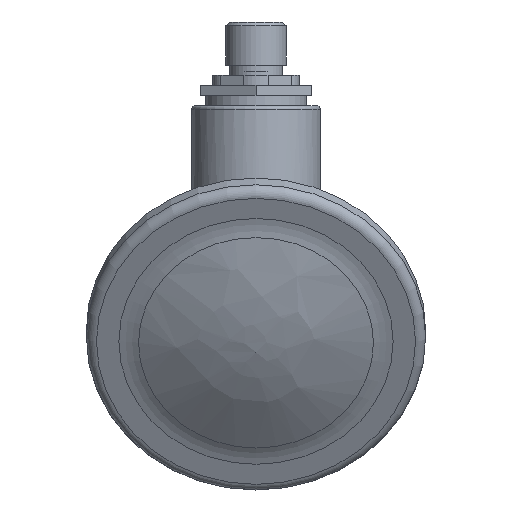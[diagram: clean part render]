
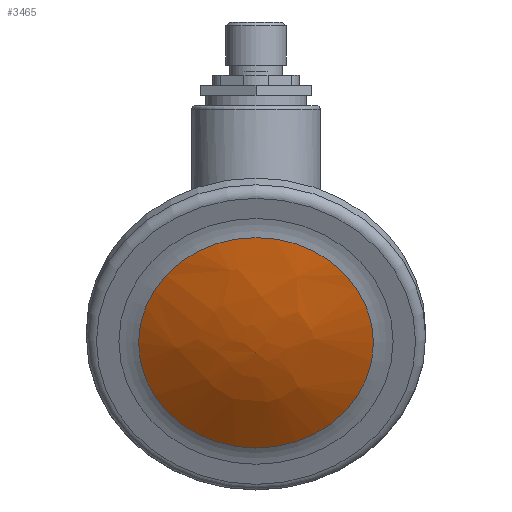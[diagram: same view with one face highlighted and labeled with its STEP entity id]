
A CAD part, left-side view. The second image highlights one B-rep face of the part: STEP entity #3465.
In plain terms, the highlighted free-form (B-spline) face has degree [3, 3] with [5, 19] control points.
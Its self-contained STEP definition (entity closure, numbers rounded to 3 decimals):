
#19=VERTEX_LOOP('',#1769);
#22=B_SPLINE_SURFACE_WITH_KNOTS('',3,3,((#7125,#7126,#7127,#7128,#7129,
#7130,#7131,#7132,#7133,#7134,#7135,#7136,#7137,#7138,#7139,#7140,#7141,
#7142,#7143),(#7144,#7145,#7146,#7147,#7148,#7149,#7150,#7151,#7152,#7153,
#7154,#7155,#7156,#7157,#7158,#7159,#7160,#7161,#7162),(#7163,#7164,#7165,
#7166,#7167,#7168,#7169,#7170,#7171,#7172,#7173,#7174,#7175,#7176,#7177,
#7178,#7179,#7180,#7181),(#7182,#7183,#7184,#7185,#7186,#7187,#7188,#7189,
#7190,#7191,#7192,#7193,#7194,#7195,#7196,#7197,#7198,#7199,#7200),(#7201,
#7202,#7203,#7204,#7205,#7206,#7207,#7208,#7209,#7210,#7211,#7212,#7213,
#7214,#7215,#7216,#7217,#7218,#7219)),.UNSPECIFIED.,.F.,.T.,.F.,(4,1,4),
(1,1,1,1,1,1,1,1,1,1,1,1,1,1,1,1,1,1,1,1,1,1,1),(0.,0.49,0.98),
(-1.178,-0.785,-0.393,0.,0.393,
0.785,1.178,1.571,1.963,2.356,
2.749,3.142,3.534,3.927,4.32,
4.712,5.105,5.498,5.89,6.283,
6.676,7.069,7.461),.UNSPECIFIED.);
#948=ORIENTED_EDGE('',*,*,#1459,.T.);
#1459=EDGE_CURVE('',#1770,#1770,#1995,.T.);
#1769=VERTEX_POINT('',#7220);
#1770=VERTEX_POINT('',#7222);
#1995=CIRCLE('',#3813,23.177);
#2273=EDGE_LOOP('',(#948));
#2652=FACE_BOUND('',#19,.T.);
#2653=FACE_BOUND('',#2273,.T.);
#3465=ADVANCED_FACE('',(#2652,#2653),#22,.F.);
#3813=AXIS2_PLACEMENT_3D('',#7221,#4550,#4551);
#4550=DIRECTION('',(-0.896,0.,-0.444));
#4551=DIRECTION('',(0.444,0.,-0.896));
#7125=CARTESIAN_POINT('',(-259.546,0.,-5.716));
#7126=CARTESIAN_POINT('',(-259.546,0.,-5.716));
#7127=CARTESIAN_POINT('',(-259.546,0.,-5.716));
#7128=CARTESIAN_POINT('',(-259.546,0.,-5.716));
#7129=CARTESIAN_POINT('',(-259.546,0.,-5.716));
#7130=CARTESIAN_POINT('',(-259.546,0.,-5.716));
#7131=CARTESIAN_POINT('',(-259.546,0.,-5.716));
#7132=CARTESIAN_POINT('',(-259.546,0.,-5.716));
#7133=CARTESIAN_POINT('',(-259.546,0.,-5.716));
#7134=CARTESIAN_POINT('',(-259.546,0.,-5.716));
#7135=CARTESIAN_POINT('',(-259.546,0.,-5.716));
#7136=CARTESIAN_POINT('',(-259.546,0.,-5.716));
#7137=CARTESIAN_POINT('',(-259.546,0.,-5.716));
#7138=CARTESIAN_POINT('',(-259.546,0.,-5.716));
#7139=CARTESIAN_POINT('',(-259.546,0.,-5.716));
#7140=CARTESIAN_POINT('',(-259.546,0.,-5.716));
#7141=CARTESIAN_POINT('',(-259.546,0.,-5.716));
#7142=CARTESIAN_POINT('',(-259.546,0.,-5.716));
#7143=CARTESIAN_POINT('',(-259.546,0.,-5.716));
#7144=CARTESIAN_POINT('',(-258.758,3.72,-7.045));
#7145=CARTESIAN_POINT('',(-259.441,4.026,-5.664));
#7146=CARTESIAN_POINT('',(-260.125,3.72,-4.283));
#7147=CARTESIAN_POINT('',(-260.705,2.847,-3.113));
#7148=CARTESIAN_POINT('',(-261.092,1.541,-2.331));
#7149=CARTESIAN_POINT('',(-261.228,0.,-2.056));
#7150=CARTESIAN_POINT('',(-261.092,-1.541,-2.331));
#7151=CARTESIAN_POINT('',(-260.705,-2.847,-3.113));
#7152=CARTESIAN_POINT('',(-260.125,-3.72,-4.283));
#7153=CARTESIAN_POINT('',(-259.441,-4.026,-5.664));
#7154=CARTESIAN_POINT('',(-258.758,-3.72,-7.045));
#7155=CARTESIAN_POINT('',(-258.178,-2.847,-8.215));
#7156=CARTESIAN_POINT('',(-257.791,-1.541,-8.998));
#7157=CARTESIAN_POINT('',(-257.655,0.,-9.272));
#7158=CARTESIAN_POINT('',(-257.791,1.541,-8.998));
#7159=CARTESIAN_POINT('',(-258.178,2.847,-8.215));
#7160=CARTESIAN_POINT('',(-258.758,3.72,-7.045));
#7161=CARTESIAN_POINT('',(-259.441,4.026,-5.664));
#7162=CARTESIAN_POINT('',(-260.125,3.72,-4.283));
#7163=CARTESIAN_POINT('',(-256.642,11.186,-9.448));
#7164=CARTESIAN_POINT('',(-258.698,12.107,-5.296));
#7165=CARTESIAN_POINT('',(-260.753,11.186,-1.144));
#7166=CARTESIAN_POINT('',(-262.496,8.561,2.376));
#7167=CARTESIAN_POINT('',(-263.66,4.633,4.728));
#7168=CARTESIAN_POINT('',(-264.069,0.,5.554));
#7169=CARTESIAN_POINT('',(-263.66,-4.633,4.728));
#7170=CARTESIAN_POINT('',(-262.496,-8.561,2.376));
#7171=CARTESIAN_POINT('',(-260.753,-11.186,-1.144));
#7172=CARTESIAN_POINT('',(-258.698,-12.107,-5.296));
#7173=CARTESIAN_POINT('',(-256.642,-11.186,-9.448));
#7174=CARTESIAN_POINT('',(-254.9,-8.561,-12.968));
#7175=CARTESIAN_POINT('',(-253.735,-4.633,-15.32));
#7176=CARTESIAN_POINT('',(-253.326,0.,-16.146));
#7177=CARTESIAN_POINT('',(-253.735,4.633,-15.32));
#7178=CARTESIAN_POINT('',(-254.9,8.561,-12.968));
#7179=CARTESIAN_POINT('',(-256.642,11.186,-9.448));
#7180=CARTESIAN_POINT('',(-258.698,12.107,-5.296));
#7181=CARTESIAN_POINT('',(-260.753,11.186,-1.144));
#7182=CARTESIAN_POINT('',(-253.509,18.45,-11.254));
#7183=CARTESIAN_POINT('',(-256.899,19.97,-4.406));
#7184=CARTESIAN_POINT('',(-260.29,18.45,2.443));
#7185=CARTESIAN_POINT('',(-263.164,14.121,8.249));
#7186=CARTESIAN_POINT('',(-265.085,7.642,12.129));
#7187=CARTESIAN_POINT('',(-265.759,0.,13.491));
#7188=CARTESIAN_POINT('',(-265.085,-7.642,12.129));
#7189=CARTESIAN_POINT('',(-263.164,-14.121,8.249));
#7190=CARTESIAN_POINT('',(-260.29,-18.45,2.443));
#7191=CARTESIAN_POINT('',(-256.899,-19.97,-4.406));
#7192=CARTESIAN_POINT('',(-253.509,-18.45,-11.254));
#7193=CARTESIAN_POINT('',(-250.634,-14.121,-17.06));
#7194=CARTESIAN_POINT('',(-248.714,-7.642,-20.94));
#7195=CARTESIAN_POINT('',(-248.039,0.,-22.302));
#7196=CARTESIAN_POINT('',(-248.714,7.642,-20.94));
#7197=CARTESIAN_POINT('',(-250.634,14.121,-17.06));
#7198=CARTESIAN_POINT('',(-253.509,18.45,-11.254));
#7199=CARTESIAN_POINT('',(-256.899,19.97,-4.406));
#7200=CARTESIAN_POINT('',(-260.29,18.45,2.443));
#7201=CARTESIAN_POINT('',(-251.717,21.97,-11.994));
#7202=CARTESIAN_POINT('',(-255.754,23.78,-3.839));
#7203=CARTESIAN_POINT('',(-259.792,21.97,4.317));
#7204=CARTESIAN_POINT('',(-263.214,16.815,11.231));
#7205=CARTESIAN_POINT('',(-265.501,9.1,15.851));
#7206=CARTESIAN_POINT('',(-266.304,0.,17.473));
#7207=CARTESIAN_POINT('',(-265.501,-9.1,15.851));
#7208=CARTESIAN_POINT('',(-263.214,-16.815,11.231));
#7209=CARTESIAN_POINT('',(-259.792,-21.97,4.317));
#7210=CARTESIAN_POINT('',(-255.754,-23.78,-3.839));
#7211=CARTESIAN_POINT('',(-251.717,-21.97,-11.994));
#7212=CARTESIAN_POINT('',(-248.294,-16.815,-18.908));
#7213=CARTESIAN_POINT('',(-246.007,-9.1,-23.528));
#7214=CARTESIAN_POINT('',(-245.204,0.,-25.15));
#7215=CARTESIAN_POINT('',(-246.007,9.1,-23.528));
#7216=CARTESIAN_POINT('',(-248.294,16.815,-18.908));
#7217=CARTESIAN_POINT('',(-251.717,21.97,-11.994));
#7218=CARTESIAN_POINT('',(-255.754,23.78,-3.839));
#7219=CARTESIAN_POINT('',(-259.792,21.97,4.317));
#7220=CARTESIAN_POINT('',(-259.546,0.,-5.716));
#7221=CARTESIAN_POINT('',(-255.754,0.,-3.839));
#7222=CARTESIAN_POINT('',(-245.471,0.,-24.61));
